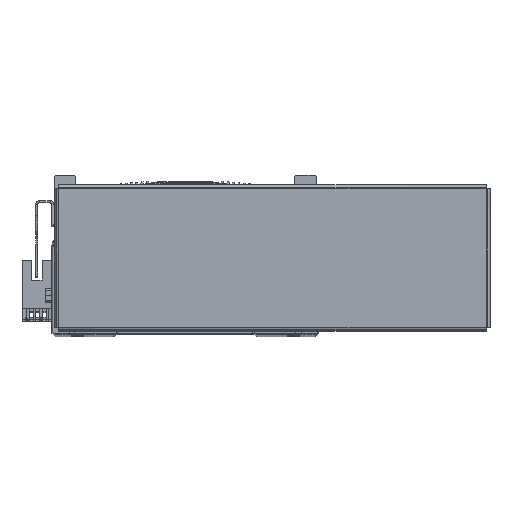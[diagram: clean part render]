
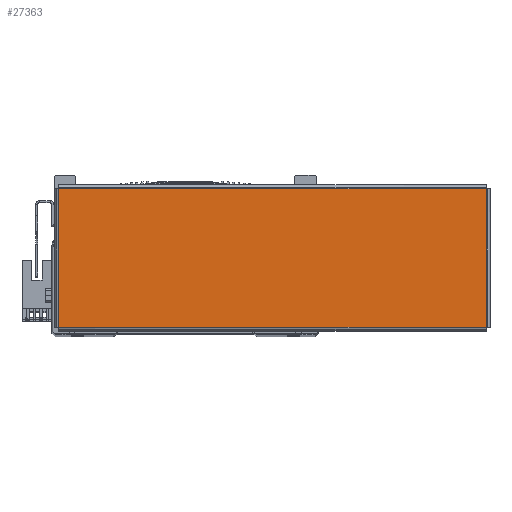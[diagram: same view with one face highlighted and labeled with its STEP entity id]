
A CAD part, top view. The second image highlights one B-rep face of the part: STEP entity #27363.
In plain terms, the highlighted planar face has unit normal (0, 0, 1) as drawn and (0, 0, -1) by its records, which use the part's own axes.
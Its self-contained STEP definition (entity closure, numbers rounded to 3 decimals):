
#990 = ORIENTED_EDGE ( 'NONE', *, *, #4141, .T. ) ;
#1046 = ORIENTED_EDGE ( 'NONE', *, *, #4140, .T. ) ;
#1304 = ORIENTED_EDGE ( 'NONE', *, *, #45630, .T. ) ;
#1369 = ORIENTED_EDGE ( 'NONE', *, *, #4118, .T. ) ;
#4118 = EDGE_CURVE ( 'NONE', #32035, #31992, #34908, .T. ) ;
#4140 = EDGE_CURVE ( 'NONE', #31947, #32035, #34967, .T. ) ;
#4141 = EDGE_CURVE ( 'NONE', #32081, #31947, #34969, .T. ) ;
#6818 = CARTESIAN_POINT ( 'NONE',  ( -97.863, -31.763, -1. ) ) ;
#6912 = CARTESIAN_POINT ( 'NONE',  ( 97.863, -31.763, -1. ) ) ;
#6925 = CARTESIAN_POINT ( 'NONE',  ( 97.863, 31.763, -1. ) ) ;
#6935 = CARTESIAN_POINT ( 'NONE',  ( -97.863, 31.763, -1. ) ) ;
#8483 = EDGE_LOOP ( 'NONE', ( #1304, #990, #1046, #1369 ) ) ;
#9230 = LINE ( 'NONE', #17391, #9232 ) ;
#9232 = VECTOR ( 'NONE', #17440, 1000. ) ;
#17391 = CARTESIAN_POINT ( 'NONE',  ( 97.863, 31.793, -1. ) ) ;
#17440 = DIRECTION ( 'NONE',  ( 0., -1., 0. ) ) ;
#27363 = ADVANCED_FACE ( 'NONE', ( #67963 ), #71987, .F. ) ;
#31947 = VERTEX_POINT ( 'NONE', #6818 ) ;
#31992 = VERTEX_POINT ( 'NONE', #6925 ) ;
#32035 = VERTEX_POINT ( 'NONE', #6935 ) ;
#32081 = VERTEX_POINT ( 'NONE', #6912 ) ;
#34908 = LINE ( 'NONE', #38559, #34962 ) ;
#34911 = VECTOR ( 'NONE', #38619, 1000. ) ;
#34915 = VECTOR ( 'NONE', #38642, 1000. ) ;
#34962 = VECTOR ( 'NONE', #38595, 1000. ) ;
#34967 = LINE ( 'NONE', #38600, #34915 ) ;
#34969 = LINE ( 'NONE', #38641, #34911 ) ;
#38559 = CARTESIAN_POINT ( 'NONE',  ( -97.893, 31.763, -1. ) ) ;
#38595 = DIRECTION ( 'NONE',  ( 1., 0., 0. ) ) ;
#38600 = CARTESIAN_POINT ( 'NONE',  ( -97.863, -31.793, -1. ) ) ;
#38619 = DIRECTION ( 'NONE',  ( -1., 0., 0. ) ) ;
#38641 = CARTESIAN_POINT ( 'NONE',  ( 97.893, -31.763, -1. ) ) ;
#38642 = DIRECTION ( 'NONE',  ( 0., 1., 0. ) ) ;
#45630 = EDGE_CURVE ( 'NONE', #31992, #32081, #9230, .T. ) ;
#62710 = AXIS2_PLACEMENT_3D ( 'NONE', #72003, #71994, #71965 ) ;
#67963 = FACE_OUTER_BOUND ( 'NONE', #8483, .T. ) ;
#71965 = DIRECTION ( 'NONE',  ( 1., 0., 0. ) ) ;
#71987 = PLANE ( 'NONE',  #62710 ) ;
#71994 = DIRECTION ( 'NONE',  ( 0., 0., 1. ) ) ;
#72003 = CARTESIAN_POINT ( 'NONE',  ( 0., 0., -1. ) ) ;
